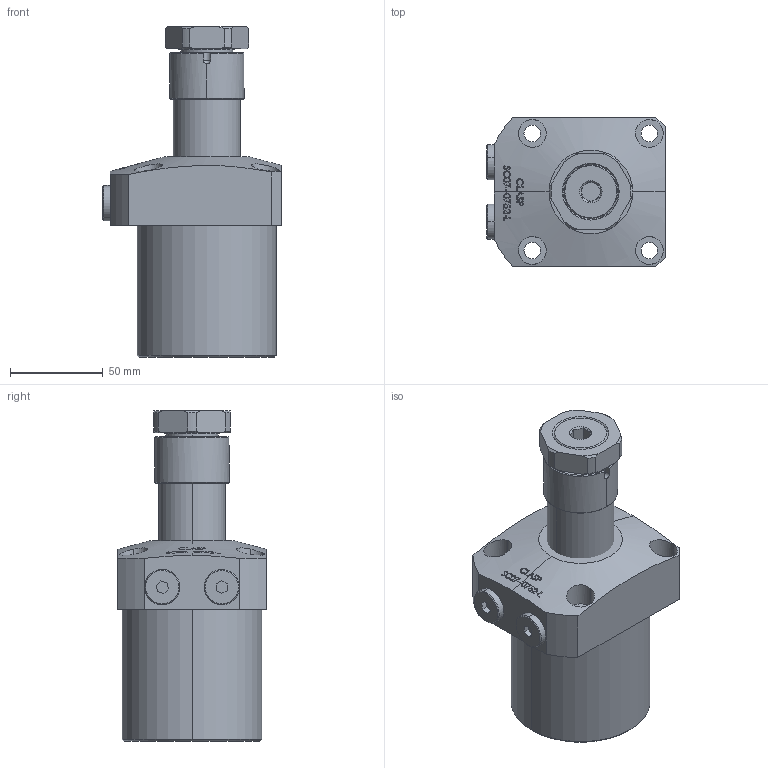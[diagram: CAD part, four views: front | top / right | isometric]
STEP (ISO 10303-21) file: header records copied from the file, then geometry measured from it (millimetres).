
FILE_DESCRIPTION (( 'STEP AP203' ), '1' );
FILE_NAME ('SC07-0752-L.STEP', '2022-07-05T17:54:21', ( '' ), ( '' ), 'SwSTEP 2.0', 'SolidWorks 2017', '' );
FILE_SCHEMA (( 'CONFIG_CONTROL_DESIGN' ));
Length unit declared in the file: millimetre
Products named in the file (6): SC-07-0752-L BODY; SC-07-0752-L Piston; SC-07-0752-L- 05 plug; SC-07-0752-L-04 sleeve; SC-07-0752-L-03-nut; SC07-0752-L
Assembly tree (6 placements, depth 2):
  SC07-0752-L
    SC-07-0752-L BODY
    SC-07-0752-L Piston
    SC-07-0752-L- 05 plug  x2
    SC-07-0752-L-04 sleeve
    SC-07-0752-L-03-nut
Bounding box: 96 x 80 x 178 mm (x, y, z)
Volume: 638272.6 mm3; surface area: 71562.2 mm2
Topology: 6 solids, 6 shells, 358 faces, 899 edges, 589 vertices
Faces by surface type: plane 161, bspline 86, cylinder 62, cone 47, sphere 2
Entity records: 16140 total; most frequent: CARTESIAN_POINT 7934, ORIENTED_EDGE 1730, DIRECTION 1241, EDGE_CURVE 865, VERTEX_POINT 568, AXIS2_PLACEMENT_3D 424, VECTOR 393, LINE 393
